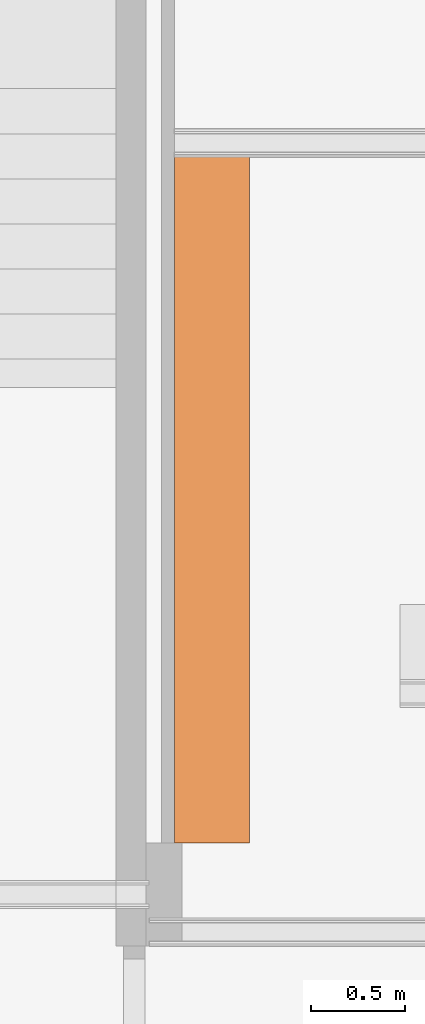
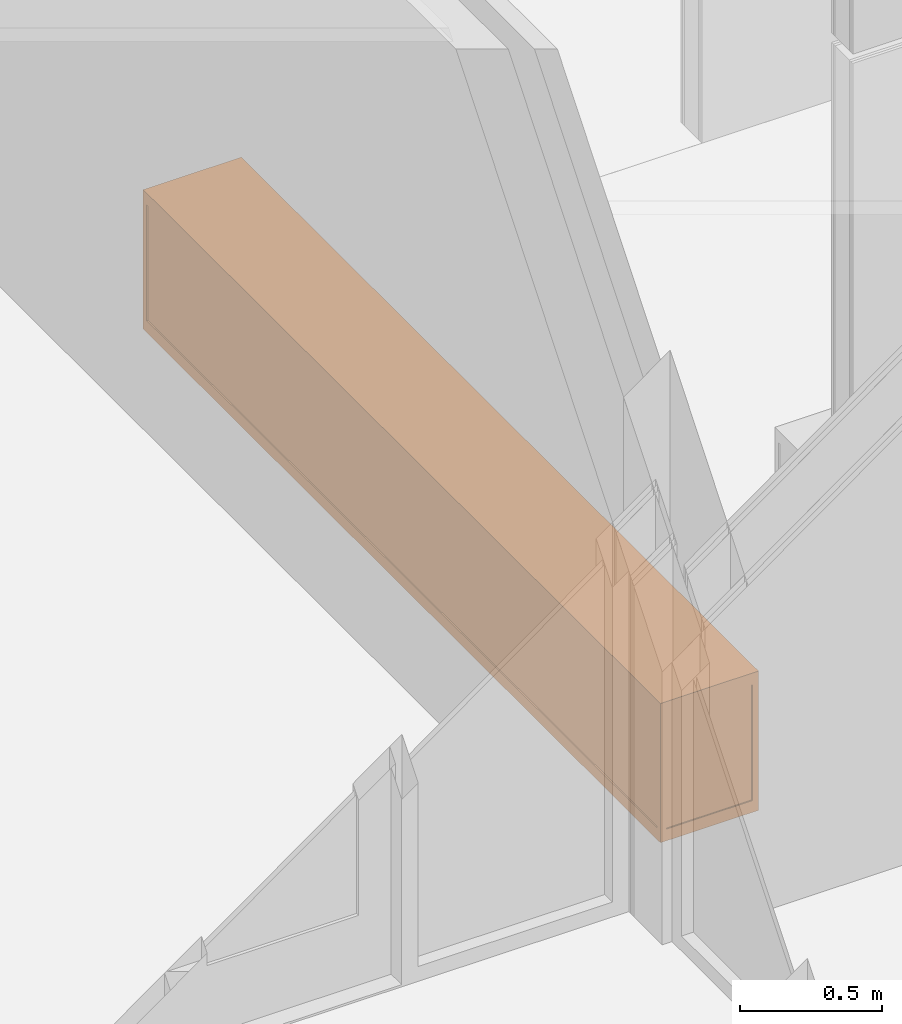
# One storey, part 107 of 109: 1 proxy.
"""IFC2X3 building model written with IfcOpenShell, lengths in millimetres."""

from ifc_helpers import new_model, entity, si_unit, converted_unit, derived_unit, money_unit, direction, frame, origin_with_axes, place, context, subcontext, project, spatial, faceted_brep, type_object, element, save


model = new_model("IFC2X3")

# Units and contexts
model_context = context("Model", 3, precision=0.01, world=origin_with_axes(), true_north=direction((0.0, 1.0)))
body_context = subcontext(model_context, "Body", "Model", "MODEL_VIEW")
ifc_project = project(units=[si_unit("LENGTHUNIT", "METRE", prefix="MILLI"), si_unit("AREAUNIT", "SQUARE_METRE"), si_unit("VOLUMEUNIT", "CUBIC_METRE"), converted_unit("PLANEANGLEUNIT", "DEGREE", entity("IfcPlaneAngleMeasure", 0.0174532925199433), si_unit("PLANEANGLEUNIT", "RADIAN"), dimensions=[0, 0, 0, 0, 0, 0, 0]), money_unit("EUR"), converted_unit("TIMEUNIT", "Year", entity("IfcTimeMeasure", 31557600.0), si_unit("TIMEUNIT", "SECOND"), dimensions=[0, 0, 1, 0, 0, 0, 0]), si_unit("MASSUNIT", "GRAM", prefix="KILO"), si_unit("THERMODYNAMICTEMPERATUREUNIT", "DEGREE_CELSIUS"), si_unit("LUMINOUSINTENSITYUNIT", "LUMEN"), si_unit("ENERGYUNIT", "JOULE", prefix="MEGA"), derived_unit("THERMALCONDUCTANCEUNIT", [(si_unit("POWERUNIT", "WATT"), 1), (si_unit("LENGTHUNIT", "METRE"), -1), (si_unit("THERMODYNAMICTEMPERATUREUNIT", "KELVIN"), -1)]), derived_unit("SPECIFICHEATCAPACITYUNIT", [(si_unit("ENERGYUNIT", "JOULE"), 1), (si_unit("MASSUNIT", "GRAM", prefix="KILO"), -1), (si_unit("THERMODYNAMICTEMPERATUREUNIT", "KELVIN"), -1)]), derived_unit("MASSDENSITYUNIT", [(si_unit("MASSUNIT", "GRAM", prefix="KILO"), 1), (si_unit("VOLUMEUNIT", "CUBIC_METRE"), -1)])], contexts=[model_context])

# Site, building, storey
site_placement = place(None, origin_with_axes())
site = spatial("IfcSite", under=ifc_project, at=site_placement, Name="<site naam>", CompositionType="ELEMENT")
building_placement = place(site_placement, origin_with_axes())
building = spatial("IfcBuilding", under=site, at=building_placement, Name="<Naam gebouw>", CompositionType="ELEMENT")
storey_placement = place(building_placement, origin_with_axes())
storey = spatial("IfcBuildingStorey", under=building, at=storey_placement, Name="00 Begane grond", CompositionType="ELEMENT", Elevation=0.0)

# Proxy
building_element_proxy_type = type_object("IfcBuildingElementProxyType", Name="Boekenkast 04 27 KM", PredefinedType="USERDEFINED")
proxy_placement = place(storey_placement, frame((52534.99996424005, 12275.00000000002, 0.0), z_axis=(0.0, 0.0, 1.0), x_axis=(0.0, 1.0, 0.0)))
element("IfcBuildingElementProxy", 1, at=proxy_placement, inside=storey, type_object=building_element_proxy_type, Name="72_Brandslanghaspelkast_Lege", ObjectType="Massing", context=body_context, shape_type="Brep", body=[
    faceted_brep([(0.0, 0.0, 0.0), (25.4, 0.0, 0.0), (25.4, 0.0, 600.0), (0.0, 0.0, 600.0), (0.0, 25.4, 0.0), (5.0, 25.4, 0.0), (5.0, 5.0, 0.0), (25.4, 5.0, 0.0), (25.4, 5.0, 600.0), (5.0, 5.0, 600.0), (5.0, 25.4, 600.0), (0.0, 25.4, 600.0)], [[[0, 1, 2, 3]], [[0, 4, 5, 6, 7, 1]], [[1, 7, 8, 2]], [[3, 2, 8, 9, 10, 11]], [[4, 0, 3, 11]], [[5, 4, 11, 10]], [[6, 5, 10, 9]], [[7, 6, 9, 8]]]),
    faceted_brep([(3649.999854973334, 25.4, 0.0), (3644.999854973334, 25.4, 0.0), (3644.999854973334, 25.4, 600.0), (3649.999854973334, 25.4, 600.0), (3649.999854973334, 0.0, 0.0), (3624.599854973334, 0.0, 0.0), (3624.599854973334, 5.0, 0.0), (3644.999854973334, 5.0, 0.0), (3644.999854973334, 5.0, 600.0), (3624.599854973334, 5.0, 600.0), (3624.599854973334, 0.0, 600.0), (3649.999854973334, 0.0, 600.0)], [[[0, 1, 2, 3]], [[0, 4, 5, 6, 7, 1]], [[1, 7, 8, 2]], [[3, 2, 8, 9, 10, 11]], [[4, 0, 3, 11]], [[5, 4, 11, 10]], [[6, 5, 10, 9]], [[7, 6, 9, 8]]]),
    faceted_brep([(0.0, 374.5999523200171, 0.0), (5.0, 374.5999523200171, 0.0), (5.0, 374.5999523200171, 600.0), (0.0, 374.5999523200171, 600.0), (0.0, 399.9999523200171, 0.0), (25.4, 399.9999523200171, 0.0), (25.4, 394.999952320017, 0.0), (5.0, 394.999952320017, 0.0), (5.0, 394.999952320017, 600.0), (25.4, 394.999952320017, 600.0), (25.4, 399.9999523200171, 600.0), (0.0, 399.9999523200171, 600.0)], [[[0, 1, 2, 3]], [[0, 4, 5, 6, 7, 1]], [[1, 7, 8, 2]], [[3, 2, 8, 9, 10, 11]], [[4, 0, 3, 11]], [[5, 4, 11, 10]], [[6, 5, 10, 9]], [[7, 6, 9, 8]]]),
    faceted_brep([(3649.999854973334, 399.9999523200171, 0.0), (3624.599854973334, 399.9999523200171, 0.0), (3624.599854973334, 399.9999523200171, 600.0), (3649.999854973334, 399.9999523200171, 600.0), (3649.999854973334, 374.5999523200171, 0.0), (3644.999854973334, 374.5999523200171, 0.0), (3644.999854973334, 394.999952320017, 0.0), (3624.599854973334, 394.999952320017, 0.0), (3624.599854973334, 394.999952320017, 600.0), (3644.999854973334, 394.999952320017, 600.0), (3644.999854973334, 374.5999523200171, 600.0), (3649.999854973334, 374.5999523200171, 600.0)], [[[0, 1, 2, 3]], [[0, 4, 5, 6, 7, 1]], [[1, 7, 8, 2]], [[3, 2, 8, 9, 10, 11]], [[4, 0, 3, 11]], [[5, 4, 11, 10]], [[6, 5, 10, 9]], [[7, 6, 9, 8]]]),
    faceted_brep([(5.0, 394.999952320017, 0.0), (3644.999854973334, 394.999952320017, 0.0), (3644.999854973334, 389.999952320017, 0.0), (5.0, 389.999952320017, 0.0), (5.0, 394.9999523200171, 549.2), (3644.999854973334, 394.9999523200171, 549.2), (3644.999854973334, 389.9999523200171, 549.2), (5.0, 389.9999523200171, 549.2)], [[[0, 1, 2, 3]], [[0, 4, 5, 1]], [[1, 5, 6, 2]], [[3, 2, 6, 7]], [[4, 0, 3, 7]], [[5, 4, 7, 6]]]),
    faceted_brep([(10.0, 389.999952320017, 0.0), (10.00000000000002, 5.000000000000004, 0.0), (5.000000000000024, 5.000000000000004, 0.0), (5.0, 389.999952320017, 0.0), (10.0, 389.9999523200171, 549.2), (10.00000000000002, 5.00000000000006, 549.2), (5.000000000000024, 5.00000000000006, 549.2), (5.0, 389.9999523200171, 549.2)], [[[0, 1, 2, 3]], [[0, 4, 5, 1]], [[1, 5, 6, 2]], [[3, 2, 6, 7]], [[4, 0, 3, 7]], [[5, 4, 7, 6]]]),
    faceted_brep([(3644.999854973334, 389.9999523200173, 0.0), (3644.999854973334, 5.000000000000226, 0.0), (3639.999854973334, 5.000000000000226, 0.0), (3639.999854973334, 389.9999523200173, 0.0), (3644.999854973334, 389.9999523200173, 549.2), (3644.999854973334, 5.000000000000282, 549.2), (3639.999854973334, 5.000000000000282, 549.2), (3639.999854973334, 389.9999523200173, 549.2)], [[[0, 1, 2, 3]], [[0, 4, 5, 1]], [[1, 5, 6, 2]], [[3, 2, 6, 7]], [[4, 0, 3, 7]], [[5, 4, 7, 6]]]),
    faceted_brep([(10.0, 10.0, 50.8), (1824.999927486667, 10.0, 50.8), (1824.999927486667, 10.0, 549.1999999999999), (10.0, 10.0, 549.1999999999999), (10.0, 15.0, 50.8), (1824.999927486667, 15.0, 50.8), (1824.999927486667, 15.0, 549.1999999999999), (10.0, 15.0, 549.1999999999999)], [[[0, 1, 2, 3]], [[0, 4, 5, 1]], [[1, 5, 6, 2]], [[3, 2, 6, 7]], [[4, 0, 3, 7]], [[5, 4, 7, 6]]]),
    faceted_brep([(1824.999927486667, 5.0, 50.8), (3639.999854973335, 5.0, 50.8), (3639.999854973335, 5.0, 549.1999999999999), (1824.999927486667, 5.0, 549.1999999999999), (1824.999927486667, 10.0, 50.8), (3639.999854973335, 10.0, 50.8), (3639.999854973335, 10.0, 549.1999999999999), (1824.999927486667, 10.0, 549.1999999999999)], [[[0, 1, 2, 3]], [[0, 4, 5, 1]], [[1, 5, 6, 2]], [[3, 2, 6, 7]], [[4, 0, 3, 7]], [[5, 4, 7, 6]]]),
    faceted_brep([(80.17211629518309, 10.00000000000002, 297.395277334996), (79.4953893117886, 10.00000000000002, 294.869697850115), (78.39038105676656, 10.00000000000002, 292.5), (76.89066664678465, 10.00000000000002, 290.3581858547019), (75.04181414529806, 10.00000000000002, 288.5093333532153), (72.89999999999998, 10.00000000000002, 287.0096189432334), (70.53030214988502, 10.00000000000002, 285.9046106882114), (68.00472266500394, 10.00000000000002, 285.2278837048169), (65.4, 10.00000000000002, 285.0000000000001), (62.79527733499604, 10.00000000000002, 285.2278837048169), (60.26969785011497, 10.00000000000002, 285.9046106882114), (57.90000000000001, 10.00000000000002, 287.0096189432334), (55.75818585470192, 10.00000000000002, 288.5093333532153), (53.90933335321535, 10.00000000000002, 290.3581858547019), (52.40961894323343, 10.00000000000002, 292.5), (51.30461068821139, 10.00000000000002, 294.869697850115), (50.62788370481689, 10.00000000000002, 297.395277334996), (50.40000000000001, 10.00000000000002, 300.0), (50.62788370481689, 10.00000000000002, 302.6047226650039), (51.30461068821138, 10.00000000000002, 305.130302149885), (52.40961894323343, 10.00000000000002, 307.5), (53.90933335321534, 10.00000000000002, 309.641814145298), (55.75818585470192, 10.00000000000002, 311.4906666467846), (57.90000000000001, 10.00000000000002, 312.9903810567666), (60.26969785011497, 10.00000000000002, 314.0953893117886), (62.79527733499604, 10.00000000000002, 314.7721162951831), (65.4, 10.00000000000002, 315.0), (68.00472266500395, 10.00000000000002, 314.7721162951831), (70.53030214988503, 10.00000000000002, 314.0953893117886), (72.89999999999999, 10.00000000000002, 312.9903810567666), (75.04181414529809, 10.00000000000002, 311.4906666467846), (76.89066664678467, 10.00000000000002, 309.641814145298), (78.39038105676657, 10.00000000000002, 307.5), (79.49538931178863, 10.00000000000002, 305.130302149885), (80.17211629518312, 10.00000000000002, 302.6047226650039), (80.4, 10.00000000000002, 300.0), (80.17211629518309, 8.00000000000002, 297.395277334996), (79.4953893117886, 8.00000000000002, 294.869697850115), (78.39038105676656, 8.00000000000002, 292.5), (76.89066664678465, 8.00000000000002, 290.3581858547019), (75.04181414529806, 8.000000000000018, 288.5093333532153), (72.89999999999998, 8.000000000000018, 287.0096189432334), (70.53030214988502, 8.000000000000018, 285.9046106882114), (68.00472266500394, 8.000000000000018, 285.2278837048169), (65.4, 8.000000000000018, 285.0000000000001), (62.79527733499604, 8.000000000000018, 285.2278837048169), (60.26969785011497, 8.000000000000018, 285.9046106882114), (57.90000000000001, 8.000000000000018, 287.0096189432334), (55.75818585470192, 8.000000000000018, 288.5093333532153), (53.90933335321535, 8.00000000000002, 290.3581858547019), (52.40961894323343, 8.00000000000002, 292.5), (51.30461068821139, 8.00000000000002, 294.869697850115), (50.62788370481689, 8.00000000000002, 297.395277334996), (50.40000000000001, 8.00000000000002, 300.0), (50.62788370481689, 8.00000000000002, 302.6047226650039), (51.30461068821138, 8.00000000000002, 305.130302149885), (52.40961894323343, 8.00000000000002, 307.5), (53.90933335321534, 8.00000000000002, 309.641814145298), (55.75818585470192, 8.000000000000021, 311.4906666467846), (57.90000000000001, 8.000000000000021, 312.9903810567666), (60.26969785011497, 8.000000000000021, 314.0953893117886), (62.79527733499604, 8.000000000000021, 314.7721162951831), (65.4, 8.000000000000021, 315.0), (68.00472266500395, 8.000000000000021, 314.7721162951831), (70.53030214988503, 8.000000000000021, 314.0953893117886), (72.89999999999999, 8.000000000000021, 312.9903810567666), (75.04181414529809, 8.000000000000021, 311.4906666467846), (76.89066664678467, 8.00000000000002, 309.641814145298), (78.39038105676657, 8.00000000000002, 307.5), (79.49538931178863, 8.00000000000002, 305.130302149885), (80.17211629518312, 8.00000000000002, 302.6047226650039), (80.4, 8.00000000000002, 300.0)], [[[0, 1, 2, 3, 4, 5, 6, 7, 8, 9, 10, 11, 12, 13, 14, 15, 16, 17, 18, 19, 20, 21, 22, 23, 24, 25, 26, 27, 28, 29, 30, 31, 32, 33, 34, 35]], [[1, 0, 36, 37]], [[2, 1, 37, 38]], [[3, 2, 38, 39]], [[4, 3, 39, 40]], [[5, 4, 40, 41]], [[6, 5, 41, 42]], [[7, 6, 42, 43]], [[8, 7, 43, 44]], [[9, 8, 44, 45]], [[10, 9, 45, 46]], [[11, 10, 46, 47]], [[12, 11, 47, 48]], [[13, 12, 48, 49]], [[14, 13, 49, 50]], [[15, 14, 50, 51]], [[16, 15, 51, 52]], [[17, 16, 52, 53]], [[18, 17, 53, 54]], [[19, 18, 54, 55]], [[20, 19, 55, 56]], [[21, 20, 56, 57]], [[22, 21, 57, 58]], [[23, 22, 58, 59]], [[24, 23, 59, 60]], [[25, 24, 60, 61]], [[26, 25, 61, 62]], [[27, 26, 62, 63]], [[28, 27, 63, 64]], [[29, 28, 64, 65]], [[30, 29, 65, 66]], [[31, 30, 66, 67]], [[32, 31, 67, 68]], [[33, 32, 68, 69]], [[34, 33, 69, 70]], [[35, 34, 70, 71]], [[0, 35, 71, 36]], [[36, 71, 70, 69, 68, 67, 66, 65, 64, 63, 62, 61, 60, 59, 58, 57, 56, 55, 54, 53, 52, 51, 50, 49, 48, 47, 46, 45, 44, 43, 42, 41, 40, 39, 38, 37]]]),
    faceted_brep([(3599.371971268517, 5.00000000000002, 297.395277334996), (3598.695244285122, 5.00000000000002, 294.869697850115), (3597.5902360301, 5.000000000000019, 292.5), (3596.090521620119, 5.000000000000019, 290.3581858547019), (3594.241669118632, 5.000000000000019, 288.5093333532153), (3592.099854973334, 5.000000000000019, 287.0096189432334), (3589.730157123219, 5.000000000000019, 285.9046106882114), (3587.204577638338, 5.000000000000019, 285.2278837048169), (3584.599854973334, 5.000000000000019, 285.0000000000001), (3581.99513230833, 5.000000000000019, 285.2278837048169), (3579.469552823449, 5.000000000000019, 285.9046106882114), (3577.099854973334, 5.000000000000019, 287.0096189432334), (3574.958040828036, 5.000000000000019, 288.5093333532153), (3573.109188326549, 5.000000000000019, 290.3581858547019), (3571.609473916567, 5.000000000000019, 292.5), (3570.504465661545, 5.00000000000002, 294.869697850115), (3569.827738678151, 5.00000000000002, 297.395277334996), (3569.599854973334, 5.00000000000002, 300.0), (3569.827738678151, 5.00000000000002, 302.6047226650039), (3570.504465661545, 5.00000000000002, 305.130302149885), (3571.609473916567, 5.00000000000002, 307.5), (3573.109188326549, 5.00000000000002, 309.641814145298), (3574.958040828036, 5.00000000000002, 311.4906666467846), (3577.099854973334, 5.00000000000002, 312.9903810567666), (3579.469552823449, 5.00000000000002, 314.0953893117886), (3581.99513230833, 5.00000000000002, 314.7721162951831), (3584.599854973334, 5.00000000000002, 315.0), (3587.204577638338, 5.00000000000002, 314.7721162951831), (3589.730157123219, 5.00000000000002, 314.0953893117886), (3592.099854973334, 5.00000000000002, 312.9903810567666), (3594.241669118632, 5.00000000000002, 311.4906666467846), (3596.090521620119, 5.00000000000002, 309.641814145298), (3597.5902360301, 5.00000000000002, 307.5), (3598.695244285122, 5.00000000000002, 305.130302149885), (3599.371971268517, 5.00000000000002, 302.6047226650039), (3599.599854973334, 5.00000000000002, 300.0), (3599.371971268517, 3.000000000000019, 297.395277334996), (3598.695244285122, 3.000000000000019, 294.869697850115), (3597.5902360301, 3.000000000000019, 292.5), (3596.090521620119, 3.000000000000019, 290.3581858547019), (3594.241669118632, 3.000000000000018, 288.5093333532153), (3592.099854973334, 3.000000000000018, 287.0096189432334), (3589.730157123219, 3.000000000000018, 285.9046106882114), (3587.204577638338, 3.000000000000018, 285.2278837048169), (3584.599854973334, 3.000000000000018, 285.0000000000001), (3581.99513230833, 3.000000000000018, 285.2278837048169), (3579.469552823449, 3.000000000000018, 285.9046106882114), (3577.099854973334, 3.000000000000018, 287.0096189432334), (3574.958040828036, 3.000000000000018, 288.5093333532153), (3573.109188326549, 3.000000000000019, 290.3581858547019), (3571.609473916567, 3.000000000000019, 292.5), (3570.504465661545, 3.000000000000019, 294.869697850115), (3569.827738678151, 3.000000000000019, 297.395277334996), (3569.599854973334, 3.000000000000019, 300.0), (3569.827738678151, 3.000000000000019, 302.6047226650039), (3570.504465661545, 3.00000000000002, 305.130302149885), (3571.609473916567, 3.00000000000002, 307.5), (3573.109188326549, 3.00000000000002, 309.641814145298), (3574.958040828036, 3.00000000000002, 311.4906666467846), (3577.099854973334, 3.00000000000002, 312.9903810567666), (3579.469552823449, 3.00000000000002, 314.0953893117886), (3581.99513230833, 3.00000000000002, 314.7721162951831), (3584.599854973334, 3.00000000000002, 315.0), (3587.204577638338, 3.00000000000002, 314.7721162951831), (3589.730157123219, 3.00000000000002, 314.0953893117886), (3592.099854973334, 3.00000000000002, 312.9903810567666), (3594.241669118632, 3.00000000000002, 311.4906666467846), (3596.090521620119, 3.00000000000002, 309.641814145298), (3597.5902360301, 3.00000000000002, 307.5), (3598.695244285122, 3.00000000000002, 305.130302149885), (3599.371971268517, 3.000000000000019, 302.6047226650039), (3599.599854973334, 3.000000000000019, 300.0)], [[[0, 1, 2, 3, 4, 5, 6, 7, 8, 9, 10, 11, 12, 13, 14, 15, 16, 17, 18, 19, 20, 21, 22, 23, 24, 25, 26, 27, 28, 29, 30, 31, 32, 33, 34, 35]], [[1, 0, 36, 37]], [[2, 1, 37, 38]], [[3, 2, 38, 39]], [[4, 3, 39, 40]], [[5, 4, 40, 41]], [[6, 5, 41, 42]], [[7, 6, 42, 43]], [[8, 7, 43, 44]], [[9, 8, 44, 45]], [[10, 9, 45, 46]], [[11, 10, 46, 47]], [[12, 11, 47, 48]], [[13, 12, 48, 49]], [[14, 13, 49, 50]], [[15, 14, 50, 51]], [[16, 15, 51, 52]], [[17, 16, 52, 53]], [[18, 17, 53, 54]], [[19, 18, 54, 55]], [[20, 19, 55, 56]], [[21, 20, 56, 57]], [[22, 21, 57, 58]], [[23, 22, 58, 59]], [[24, 23, 59, 60]], [[25, 24, 60, 61]], [[26, 25, 61, 62]], [[27, 26, 62, 63]], [[28, 27, 63, 64]], [[29, 28, 64, 65]], [[30, 29, 65, 66]], [[31, 30, 66, 67]], [[32, 31, 67, 68]], [[33, 32, 68, 69]], [[34, 33, 69, 70]], [[35, 34, 70, 71]], [[0, 35, 71, 36]], [[36, 71, 70, 69, 68, 67, 66, 65, 64, 63, 62, 61, 60, 59, 58, 57, 56, 55, 54, 53, 52, 51, 50, 49, 48, 47, 46, 45, 44, 43, 42, 41, 40, 39, 38, 37]]]),
    faceted_brep([(25.4, 399.9999523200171, 0.0), (25.4, 394.999952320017, 0.0), (25.4, 394.999952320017, 50.8), (25.4, 399.9999523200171, 50.8), (3624.599854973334, 399.9999523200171, 0.0), (3624.599854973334, 394.999952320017, 0.0), (3624.599854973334, 394.999952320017, 50.8), (3624.599854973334, 399.9999523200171, 50.8)], [[[0, 1, 2, 3]], [[0, 4, 5, 1]], [[1, 5, 6, 2]], [[3, 2, 6, 7]], [[4, 0, 3, 7]], [[5, 4, 7, 6]]]),
    faceted_brep([(0.0, 25.4, 0.0), (5.0, 25.4, 0.0), (5.0, 25.4, 50.8), (0.0, 25.4, 50.8), (0.0, 374.5999523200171, 0.0), (5.0, 374.5999523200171, 0.0), (5.0, 374.5999523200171, 50.8), (0.0, 374.5999523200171, 50.8)], [[[0, 1, 2, 3]], [[0, 4, 5, 1]], [[1, 5, 6, 2]], [[3, 2, 6, 7]], [[4, 0, 3, 7]], [[5, 4, 7, 6]]]),
    faceted_brep([(3649.999854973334, 374.5999523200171, 0.0), (3644.999854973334, 374.5999523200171, 0.0), (3644.999854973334, 374.5999523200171, 50.8), (3649.999854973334, 374.5999523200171, 50.8), (3649.999854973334, 25.4, 0.0), (3644.999854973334, 25.4, 0.0), (3644.999854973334, 25.4, 50.8), (3649.999854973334, 25.4, 50.8)], [[[0, 1, 2, 3]], [[0, 4, 5, 1]], [[1, 5, 6, 2]], [[3, 2, 6, 7]], [[4, 0, 3, 7]], [[5, 4, 7, 6]]]),
    faceted_brep([(3624.599854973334, 0.0, 0.0), (3624.599854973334, 5.0, 0.0), (3624.599854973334, 5.0, 50.8), (3624.599854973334, 0.0, 50.8), (25.4, 0.0, 0.0), (25.4, 5.0, 0.0), (10.0, 5.0, 0.0), (10.0, 20.0, 0.0), (3639.999854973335, 20.0, 0.0), (3639.999854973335, 5.0, 0.0), (3639.999854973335, 5.0, 50.8), (3639.999854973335, 20.0, 50.8), (10.0, 20.0, 50.8), (10.0, 5.0, 50.8), (25.4, 5.0, 50.8), (25.4, 0.0, 50.8)], [[[0, 1, 2, 3]], [[0, 4, 5, 6, 7, 8, 9, 1]], [[1, 9, 10, 2]], [[3, 2, 10, 11, 12, 13, 14, 15]], [[4, 0, 3, 15]], [[5, 4, 15, 14]], [[6, 5, 14, 13]], [[7, 6, 13, 12]], [[8, 7, 12, 11]], [[9, 8, 11, 10]]]),
    faceted_brep([(10.0, 10.0, 549.2), (3639.999854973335, 10.0, 549.2), (3639.999854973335, 10.0, 600.0), (10.0, 10.0, 600.0), (10.0, 389.999952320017, 549.2), (3639.999854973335, 389.999952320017, 549.2), (3639.999854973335, 389.999952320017, 600.0), (10.0, 389.999952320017, 600.0)], [[[0, 1, 2, 3]], [[0, 4, 5, 1]], [[1, 5, 6, 2]], [[3, 2, 6, 7]], [[4, 0, 3, 7]], [[5, 4, 7, 6]]]),
    faceted_brep([(0.0, 25.4, 549.2), (5.0, 25.4, 549.2), (5.0, 25.4, 600.0), (0.0, 25.4, 600.0), (0.0, 374.5999523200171, 549.2), (5.0, 374.5999523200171, 549.2), (5.0, 394.999952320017, 549.2), (10.0, 389.999952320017, 549.2), (10.0, 10.0, 549.2), (5.0, 5.0, 549.2), (5.0, 5.0, 600.0), (10.0, 10.0, 600.0), (10.0, 389.999952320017, 600.0), (5.0, 394.999952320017, 600.0), (5.0, 374.5999523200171, 600.0), (0.0, 374.5999523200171, 600.0)], [[[0, 1, 2, 3]], [[0, 4, 5, 6, 7, 8, 9, 1]], [[1, 9, 10, 2]], [[3, 2, 10, 11, 12, 13, 14, 15]], [[4, 0, 3, 15]], [[5, 4, 15, 14]], [[6, 5, 14, 13]], [[7, 6, 13, 12]], [[8, 7, 12, 11]], [[9, 8, 11, 10]]]),
    faceted_brep([(3649.999854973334, 374.5999523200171, 549.2), (3644.999854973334, 374.5999523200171, 549.2), (3644.999854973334, 374.5999523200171, 600.0), (3649.999854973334, 374.5999523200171, 600.0), (3649.999854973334, 25.4, 549.2), (3644.999854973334, 25.4, 549.2), (3644.999854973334, 5.0, 549.2), (3639.999854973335, 10.0, 549.2), (3639.999854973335, 389.999952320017, 549.2), (3644.999854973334, 394.999952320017, 549.2), (3644.999854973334, 394.999952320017, 600.0), (3639.999854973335, 389.999952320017, 600.0), (3639.999854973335, 10.0, 600.0), (3644.999854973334, 5.0, 600.0), (3644.999854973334, 25.4, 600.0), (3649.999854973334, 25.4, 600.0)], [[[0, 1, 2, 3]], [[0, 4, 5, 6, 7, 8, 9, 1]], [[1, 9, 10, 2]], [[3, 2, 10, 11, 12, 13, 14, 15]], [[4, 0, 3, 15]], [[5, 4, 15, 14]], [[6, 5, 14, 13]], [[7, 6, 13, 12]], [[8, 7, 12, 11]], [[9, 8, 11, 10]]]),
    faceted_brep([(3624.599854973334, 0.0, 549.2), (3624.599854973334, 5.0, 549.2), (3624.599854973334, 5.0, 600.0), (3624.599854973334, 0.0, 600.0), (25.4, 0.0, 549.2), (25.4, 5.0, 549.2), (5.0, 5.0, 549.2), (10.0, 10.0, 549.2), (3639.999854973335, 10.0, 549.2), (3644.999854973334, 5.0, 549.2), (3644.999854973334, 5.0, 600.0), (3639.999854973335, 10.0, 600.0), (10.0, 10.0, 600.0), (5.0, 5.0, 600.0), (25.4, 5.0, 600.0), (25.4, 0.0, 600.0)], [[[0, 1, 2, 3]], [[0, 4, 5, 6, 7, 8, 9, 1]], [[1, 9, 10, 2]], [[3, 2, 10, 11, 12, 13, 14, 15]], [[4, 0, 3, 15]], [[5, 4, 15, 14]], [[6, 5, 14, 13]], [[7, 6, 13, 12]], [[8, 7, 12, 11]], [[9, 8, 11, 10]]]),
    faceted_brep([(25.4, 399.9999523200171, 549.2), (25.4, 394.999952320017, 549.2), (25.4, 394.999952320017, 600.0), (25.4, 399.9999523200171, 600.0), (3624.599854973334, 399.9999523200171, 549.2), (3624.599854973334, 394.999952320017, 549.2), (3644.999854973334, 394.999952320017, 549.2), (3639.999854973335, 389.999952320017, 549.2), (10.0, 389.999952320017, 549.2), (5.0, 394.999952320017, 549.2), (5.0, 394.999952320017, 600.0), (10.0, 389.999952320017, 600.0), (3639.999854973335, 389.999952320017, 600.0), (3644.999854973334, 394.999952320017, 600.0), (3624.599854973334, 394.999952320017, 600.0), (3624.599854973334, 399.9999523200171, 600.0)], [[[0, 1, 2, 3]], [[0, 4, 5, 6, 7, 8, 9, 1]], [[1, 9, 10, 2]], [[3, 2, 10, 11, 12, 13, 14, 15]], [[4, 0, 3, 15]], [[5, 4, 15, 14]], [[6, 5, 14, 13]], [[7, 6, 13, 12]], [[8, 7, 12, 11]], [[9, 8, 11, 10]]]),
])

save(model, "model.ifc")
